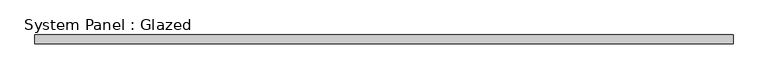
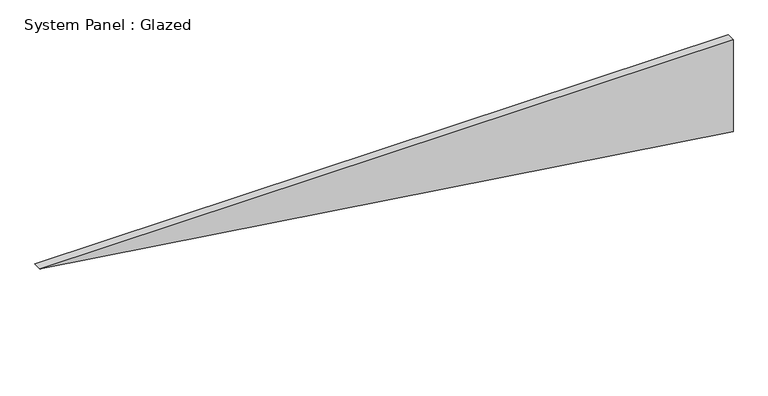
"""IFC4 building model written with IfcOpenShell, lengths in millimetres: plate geometry, System Panel : Glazed."""

from ifc_helpers import new_model, si_unit, frame, origin, place, context, project, spatial, polyline, outline, extrude, source, transform, mapped, element, save


def system_panel_glazed_57983fdc(model_context):
    return source(origin(), model_context, "Body", "SweptSolid", [
        extrude(outline(polyline([(286.3803432, -1021.3497418), (0.0, 1021.3497418), (286.3803432, 1021.3497418), (286.3803432, -1021.3497418)])), frame((0.0, 19.05, 0.0), z_axis=(0.0, 1.0, 0.0), x_axis=(0.0, 0.0, 1.0)), (0.0, 0.0, 1.0), 25.4),
    ])


if __name__ == "__main__":
    model = new_model("IFC4")
    model_context = context("Model", 3, world=origin())
    ifc_project = project(units=[si_unit("LENGTHUNIT", "METRE", prefix="MILLI")], contexts=[model_context])
    site = spatial("IfcSite", under=ifc_project)
    building = spatial("IfcBuilding", under=site)
    placement = place(None, origin())
    system_panel_glazed_shape = system_panel_glazed_57983fdc(model_context)
    element("IfcPlate", 1, ObjectType="System Panel : Glazed", at=placement, inside=building, context=model_context, shape_type="MappedRepresentation", body=[
        mapped(system_panel_glazed_shape, transform((0.0, 0.0, 0.0), x_axis=(1.0, 0.0, 0.0), y_axis=(0.0, 1.0, 0.0), z_axis=(0.0, 0.0, 1.0))),
    ])
    save(model, "model.ifc")
